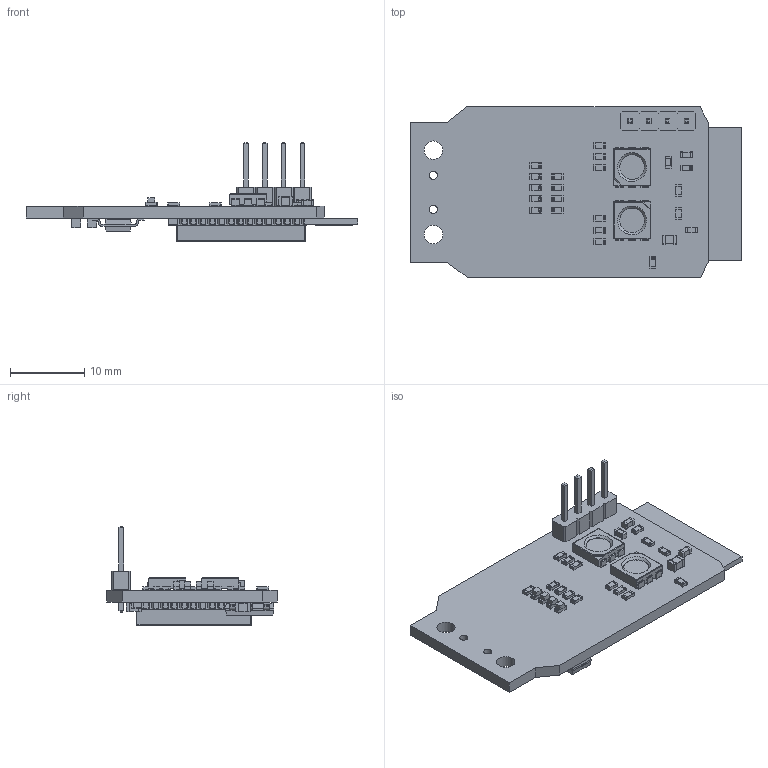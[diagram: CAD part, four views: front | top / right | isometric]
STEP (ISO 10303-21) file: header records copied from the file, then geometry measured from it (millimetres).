
FILE_DESCRIPTION(('KiCad electronic assembly'),'2;1');
FILE_NAME('OBDESP.step','2022-06-16T12:37:03',('Pcbnew'),('Kicad'), 'Open CASCADE STEP processor 7.5','KiCad to STEP converter','Unknown' );
FILE_SCHEMA(('AUTOMOTIVE_DESIGN { 1 0 10303 214 1 1 1 1 }'));
Length unit declared in the file: millimetre
Products named in the file (20): OBDESP 1; R_0603_1608Metric; SOLID; LED_0603_1608Metric; C_0603_1608Metric; LED_RGB_5050-6; PinHeader_1x04_P2.54mm_Vertical; C_0805_2012Metric; ESP32-WROOM-32; L_0603_1608Metric; SOT-223; OBDESP_1.2 PCB
Assembly tree (41 placements, depth 3):
  OBDESP 1
    R_0603_1608Metric  x15
      SOLID
    LED_0603_1608Metric  x4
      SOLID
    C_0603_1608Metric  x3
      SOLID
    LED_RGB_5050-6  x2
      SOLID
    PinHeader_1x04_P2.54mm_Vertical
      SOLID
    C_0805_2012Metric  x3
      SOLID
    ESP32-WROOM-32
      SOLID
    L_0603_1608Metric
      SOLID
    SOT-223
      SOLID
    OBDESP_1.2 PCB
Bounding box: 44.74 x 23 x 13.34 mm (x, y, z)
Volume: 2618.5 mm3; surface area: 3834.5 mm2
Topology: 32 solids, 33 shells, 1931 faces, 5122 edges, 3260 vertices
Faces by surface type: bspline 1915, plane 12, cylinder 4
Full cylindrical faces by diameter (mm): 1.1 x2, 2.5 x2
Entity records: 77799 total; most frequent: CARTESIAN_POINT 28638, B_SPLINE_CURVE_WITH_KNOTS 7930, ORIENTED_EDGE 6316, PCURVE 6316, DEFINITIONAL_REPRESENTATION 6316, EDGE_CURVE 3158, SURFACE_CURVE 3150, VERTEX_POINT 1982
